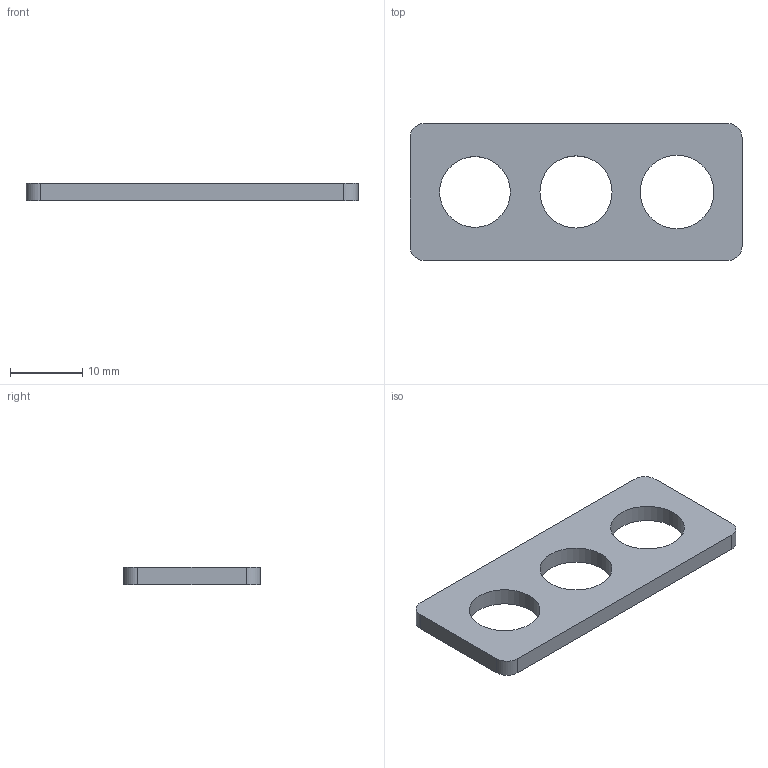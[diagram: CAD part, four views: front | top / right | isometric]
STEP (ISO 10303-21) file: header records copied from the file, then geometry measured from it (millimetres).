
FILE_DESCRIPTION(('Open CASCADE Model'),'2;1');
FILE_NAME('Open CASCADE Shape Model','2026-09-16T15:55:11',('Author'),( 'Open CASCADE'),'Open CASCADE STEP processor 7.9','Open CASCADE 7.9' ,'Unknown');
FILE_SCHEMA(('AUTOMOTIVE_DESIGN { 1 0 10303 214 1 1 1 1 }'));
Length unit declared in the file: millimetre
Products named in the file (1): Open CASCADE STEP translator 7.9 11
Bounding box: 46 x 19 x 2.4 mm (x, y, z)
Volume: 1523.7 mm3; surface area: 1799.7 mm2
Topology: 1 solids, 1 shells, 13 faces, 33 edges, 22 vertices
Faces by surface type: cylinder 7, plane 6
Full cylindrical faces by diameter (mm): 9.8 x1, 10 x1, 10.2 x1
Entity records: 882 total; most frequent: CARTESIAN_POINT 195, DIRECTION 131, LINE 71, VECTOR 71, ORIENTED_EDGE 66, PCURVE 66, DEFINITIONAL_REPRESENTATION 66, EDGE_CURVE 33
